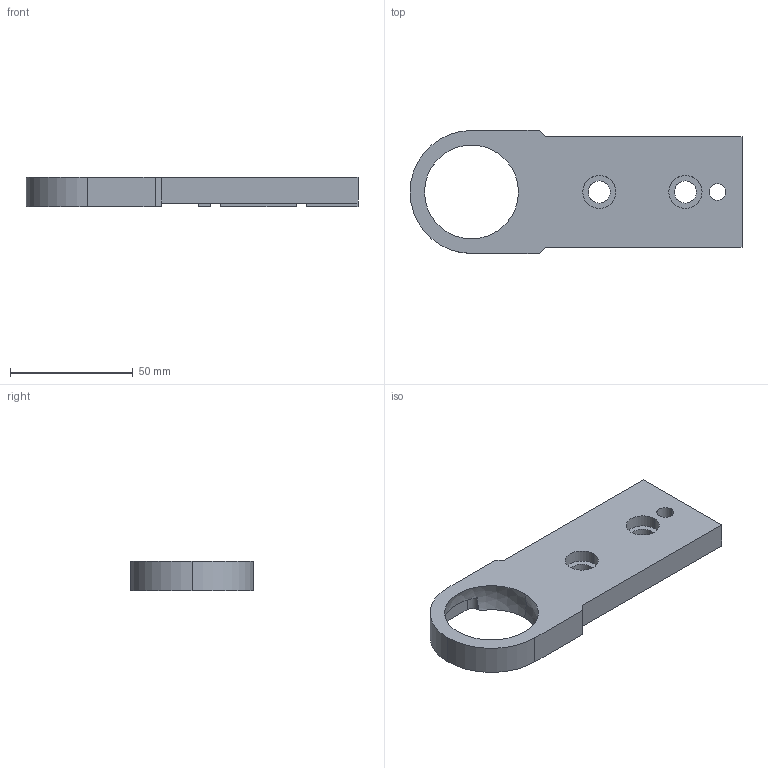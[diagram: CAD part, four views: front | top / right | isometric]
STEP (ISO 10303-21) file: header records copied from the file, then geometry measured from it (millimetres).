
FILE_DESCRIPTION (( 'STEP AP203' ), '1' );
FILE_NAME ('084.807.013.STEP', '2013-01-29T12:42:04', ( 'Alusic' ), ( 'Alusic' ), 'SwSTEP 2.0', 'SolidWorks 2011', '' );
FILE_SCHEMA (( 'CONFIG_CONTROL_DESIGN' ));
Length unit declared in the file: millimetre
Products named in the file (1): 084.807.013
Bounding box: 135 x 50 x 12 mm (x, y, z)
Volume: 50591.4 mm3; surface area: 16193.8 mm2
Topology: 1 solids, 1 shells, 49 faces, 143 edges, 94 vertices
Faces by surface type: plane 31, cylinder 16, sphere 2
Entity records: 1708 total; most frequent: CARTESIAN_POINT 293, DIRECTION 289, ORIENTED_EDGE 278, EDGE_CURVE 139, AXIS2_PLACEMENT_3D 104, VERTEX_POINT 92, LINE 81, VECTOR 81
